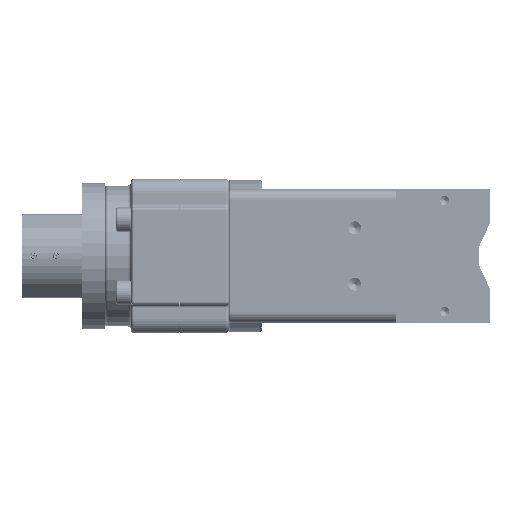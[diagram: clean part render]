
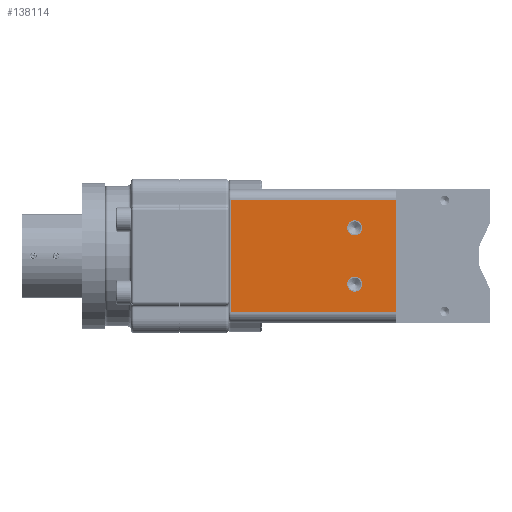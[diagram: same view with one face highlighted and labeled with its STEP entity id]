
A CAD part, left-side view. The second image highlights one B-rep face of the part: STEP entity #138114.
In plain terms, the highlighted planar face has unit normal (-1, 0, 0).
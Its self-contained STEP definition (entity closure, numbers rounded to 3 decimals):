
#5850 = VERTEX_POINT ( 'NONE', #116122 ) ;
#10427 = ORIENTED_EDGE ( 'NONE', *, *, #175130, .T. ) ;
#11994 = CARTESIAN_POINT ( 'NONE',  ( -77., 136.5, 29.762 ) ) ;
#15135 = DIRECTION ( 'NONE',  ( 0., 0., 1. ) ) ;
#15684 = DIRECTION ( 'NONE',  ( -1., 0., 0. ) ) ;
#16736 = DIRECTION ( 'NONE',  ( 0., 0., -1. ) ) ;
#17959 = DIRECTION ( 'NONE',  ( 0., 1., 0. ) ) ;
#19254 = LINE ( 'NONE', #199287, #71122 ) ;
#21210 = CIRCLE ( 'NONE', #241180, 4. ) ;
#24691 = CARTESIAN_POINT ( 'NONE',  ( -77., 48.5, 0.202 ) ) ;
#27335 = CARTESIAN_POINT ( 'NONE',  ( -77., 70.5, -14.798 ) ) ;
#28458 = ORIENTED_EDGE ( 'NONE', *, *, #61194, .F. ) ;
#35748 = CARTESIAN_POINT ( 'NONE',  ( -77., 48.5, -29.358 ) ) ;
#39047 = CIRCLE ( 'NONE', #144181, 4. ) ;
#44740 = CARTESIAN_POINT ( 'NONE',  ( -77., 70.5, -18.798 ) ) ;
#48145 = VERTEX_POINT ( 'NONE', #44740 ) ;
#52313 = EDGE_CURVE ( 'NONE', #70319, #133120, #54327, .T. ) ;
#54327 = LINE ( 'NONE', #35748, #249796 ) ;
#54869 = PLANE ( 'NONE',  #145973 ) ;
#57398 = CARTESIAN_POINT ( 'NONE',  ( -77., 70.5, -10.798 ) ) ;
#61194 = EDGE_CURVE ( 'NONE', #5850, #175512, #39047, .T. ) ;
#62105 = CIRCLE ( 'NONE', #210058, 4. ) ;
#62246 = ORIENTED_EDGE ( 'NONE', *, *, #258825, .F. ) ;
#62648 = VERTEX_POINT ( 'NONE', #259839 ) ;
#69178 = EDGE_CURVE ( 'NONE', #133775, #133120, #119880, .T. ) ;
#70319 = VERTEX_POINT ( 'NONE', #218260 ) ;
#71122 = VECTOR ( 'NONE', #17959, 1000. ) ;
#73422 = CARTESIAN_POINT ( 'NONE',  ( -77., 48.5, 0.202 ) ) ;
#89489 = DIRECTION ( 'NONE',  ( 0., 0., -1. ) ) ;
#93880 = AXIS2_PLACEMENT_3D ( 'NONE', #174589, #15684, #216862 ) ;
#95932 = EDGE_LOOP ( 'NONE', ( #216095, #123365 ) ) ;
#109354 = CARTESIAN_POINT ( 'NONE',  ( -77., 70.5, 15.202 ) ) ;
#114726 = CARTESIAN_POINT ( 'NONE',  ( -77., 70.5, -14.798 ) ) ;
#116122 = CARTESIAN_POINT ( 'NONE',  ( -77., 70.5, 11.202 ) ) ;
#116494 = DIRECTION ( 'NONE',  ( 0., 1., 0. ) ) ;
#119880 = LINE ( 'NONE', #242971, #255633 ) ;
#122235 = VECTOR ( 'NONE', #127884, 1000. ) ;
#123365 = ORIENTED_EDGE ( 'NONE', *, *, #203735, .F. ) ;
#127884 = DIRECTION ( 'NONE',  ( 0., 0., -1. ) ) ;
#131045 = EDGE_CURVE ( 'NONE', #48145, #255508, #21210, .T. ) ;
#133120 = VERTEX_POINT ( 'NONE', #242777 ) ;
#133775 = VERTEX_POINT ( 'NONE', #11994 ) ;
#134310 = DIRECTION ( 'NONE',  ( 1., 0., 0. ) ) ;
#134692 = EDGE_CURVE ( 'NONE', #175512, #5850, #187437, .T. ) ;
#138114 = ADVANCED_FACE ( 'NONE', ( #154189, #138242, #176665 ), #54869, .F. ) ;
#138242 = FACE_BOUND ( 'NONE', #182305, .T. ) ;
#144181 = AXIS2_PLACEMENT_3D ( 'NONE', #109354, #188797, #89489 ) ;
#145973 = AXIS2_PLACEMENT_3D ( 'NONE', #73422, #134310, #15135 ) ;
#146394 = ORIENTED_EDGE ( 'NONE', *, *, #134692, .F. ) ;
#153146 = ORIENTED_EDGE ( 'NONE', *, *, #52313, .F. ) ;
#154189 = FACE_BOUND ( 'NONE', #95932, .T. ) ;
#170714 = ORIENTED_EDGE ( 'NONE', *, *, #69178, .T. ) ;
#172769 = EDGE_LOOP ( 'NONE', ( #10427, #170714, #153146, #62246 ) ) ;
#174334 = DIRECTION ( 'NONE',  ( -1., 0., 0. ) ) ;
#174589 = CARTESIAN_POINT ( 'NONE',  ( -77., 70.5, 15.202 ) ) ;
#175130 = EDGE_CURVE ( 'NONE', #62648, #133775, #19254, .T. ) ;
#175512 = VERTEX_POINT ( 'NONE', #206790 ) ;
#176665 = FACE_OUTER_BOUND ( 'NONE', #172769, .T. ) ;
#182305 = EDGE_LOOP ( 'NONE', ( #28458, #146394 ) ) ;
#186265 = DIRECTION ( 'NONE',  ( -1., 0., 0. ) ) ;
#187437 = CIRCLE ( 'NONE', #93880, 4. ) ;
#188797 = DIRECTION ( 'NONE',  ( -1., 0., 0. ) ) ;
#199287 = CARTESIAN_POINT ( 'NONE',  ( -77., 48.5, 29.762 ) ) ;
#200625 = DIRECTION ( 'NONE',  ( 0., 0., -1. ) ) ;
#203735 = EDGE_CURVE ( 'NONE', #255508, #48145, #62105, .T. ) ;
#206023 = LINE ( 'NONE', #24691, #122235 ) ;
#206790 = CARTESIAN_POINT ( 'NONE',  ( -77., 70.5, 19.202 ) ) ;
#210058 = AXIS2_PLACEMENT_3D ( 'NONE', #27335, #186265, #243194 ) ;
#216095 = ORIENTED_EDGE ( 'NONE', *, *, #131045, .F. ) ;
#216862 = DIRECTION ( 'NONE',  ( 0., 0., -1. ) ) ;
#218260 = CARTESIAN_POINT ( 'NONE',  ( -77., 48.5, -29.358 ) ) ;
#241180 = AXIS2_PLACEMENT_3D ( 'NONE', #114726, #174334, #16736 ) ;
#242777 = CARTESIAN_POINT ( 'NONE',  ( -77., 136.5, -29.358 ) ) ;
#242971 = CARTESIAN_POINT ( 'NONE',  ( -77., 136.5, -29.358 ) ) ;
#243194 = DIRECTION ( 'NONE',  ( 0., 0., -1. ) ) ;
#249796 = VECTOR ( 'NONE', #116494, 1000. ) ;
#255508 = VERTEX_POINT ( 'NONE', #57398 ) ;
#255633 = VECTOR ( 'NONE', #200625, 1000. ) ;
#258825 = EDGE_CURVE ( 'NONE', #62648, #70319, #206023, .T. ) ;
#259839 = CARTESIAN_POINT ( 'NONE',  ( -77., 48.5, 29.762 ) ) ;
